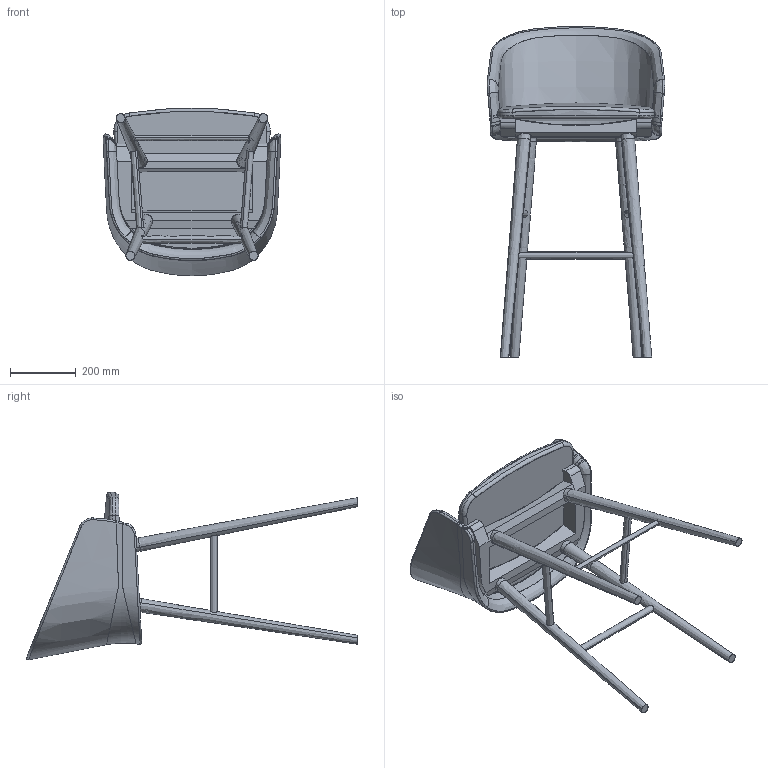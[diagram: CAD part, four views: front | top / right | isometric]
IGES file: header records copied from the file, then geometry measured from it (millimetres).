
Start section: SolidWorks IGES file using analytic representation for surfaces
Global section: file name: C:\Users\Ruben.BDLE\Box\Matthew Hilton\406T & 406P Saia Bar Stool\sales related\3D IGES\For Sale_406T Saia Bar Stool_vb_banco prmt.IGS; native system: SolidWorks 2016; preprocessor: SolidWorks 2016; author: Ruben; date: 200316.124005; units: millimetre
Bounding box: 539.32 x 1006.37 x 509.84 mm (x, y, z)
Surface area: 1559103.1 mm2 (no closed solid volume)
Topology: 0 solids, 0 shells, 140 faces, 3717 edges, 3717 vertices
Faces by surface type: bspline 106, revolution 34
